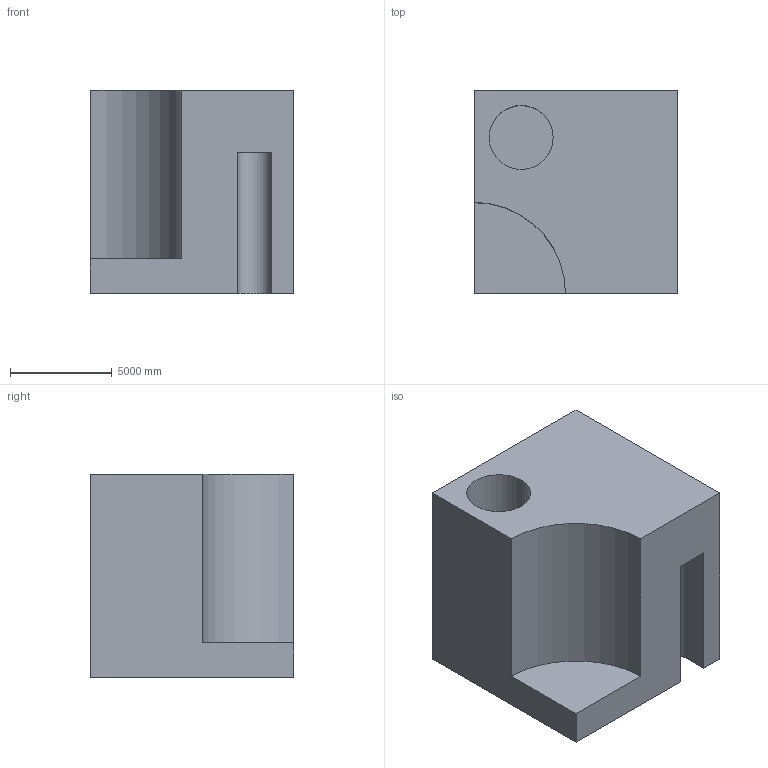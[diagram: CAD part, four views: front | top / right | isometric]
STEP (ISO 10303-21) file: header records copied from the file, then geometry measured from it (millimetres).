
FILE_DESCRIPTION (( 'STEP AP203' ), '1' );
FILE_NAME ('272.STEP', '2022-07-28T14:10:12', ( 'user' ), ( '' ), 'SwSTEP 2.0', 'SolidWorks 2021', '' );
FILE_SCHEMA (( 'CONFIG_CONTROL_DESIGN' ));
Length unit declared in the file: centimetre
Products named in the file (1): 272
Bounding box: 10000 x 10000 x 10000 mm (x, y, z)
Volume: 799004597740.5 mm3; surface area: 669808055.4 mm2
Topology: 1 solids, 1 shells, 15 faces, 36 edges, 24 vertices
Faces by surface type: plane 11, cylinder 4
Entity records: 515 total; most frequent: DIRECTION 76, CARTESIAN_POINT 76, ORIENTED_EDGE 72, EDGE_CURVE 36, VECTOR 28, LINE 28, AXIS2_PLACEMENT_3D 24, VERTEX_POINT 24
